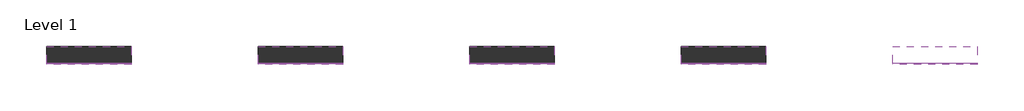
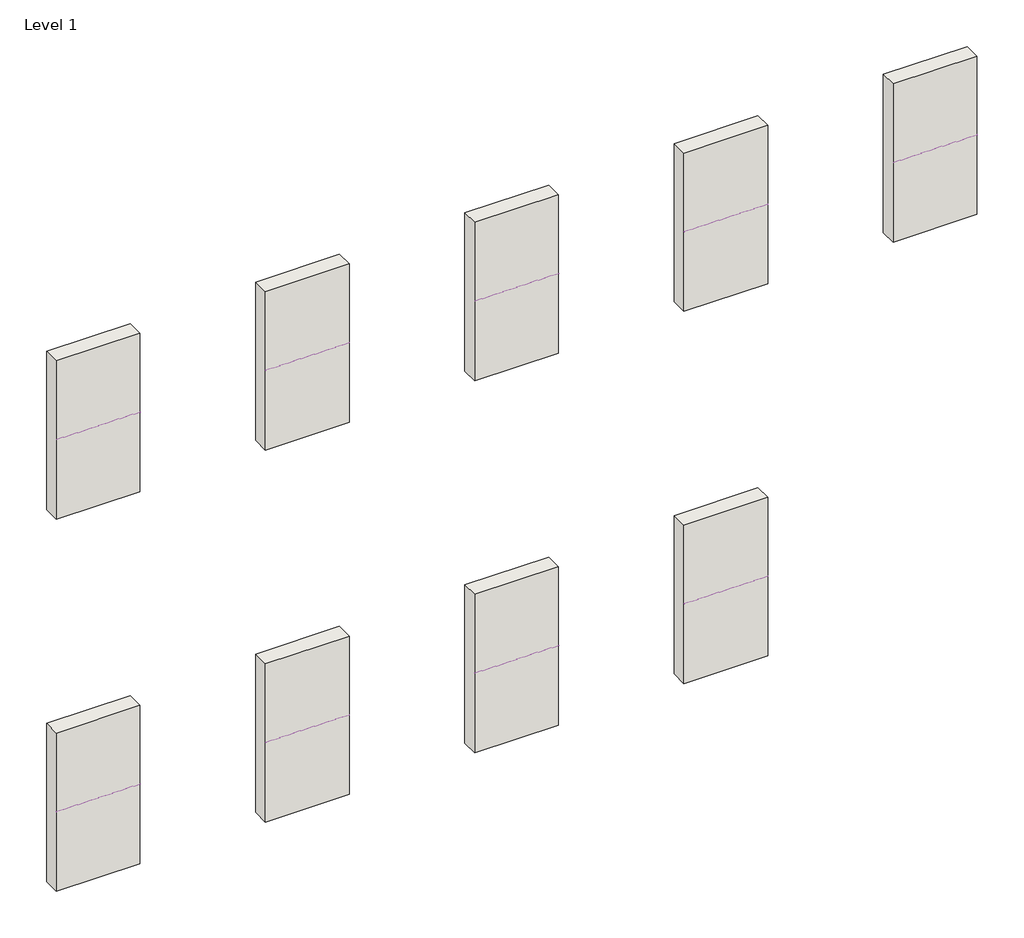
# One storey: 9 coverings, 9 walls.
"""IFC4 building model written with IfcOpenShell, lengths in millimetres."""

from ifc_helpers import new_model, si_unit, point, frame, frame_2d, origin, place, context, project, spatial, polyline, circle_curve, trimmed, segment, composite_curve, outline, extrude, faceted_brep, element, save

model = new_model("IFC4")

# Units and contexts
model_context = context("Model", 3, world=origin())
ifc_project = project(units=[si_unit("LENGTHUNIT", "METRE", prefix="MILLI")], contexts=[model_context])

# Site, building, storey
site = spatial("IfcSite", under=ifc_project)
building = spatial("IfcBuilding", under=site)
storey = spatial("IfcBuildingStorey", under=building, Name="Level 1", Elevation=0.0)

# Coverings
placement = place(None, origin())
element("IfcCovering", 1, ObjectType="MARGRES-TIME 2.0-SKIRTING SIT-IN-15x30-NR-GREY", at=placement, inside=storey, context=model_context, shape_type="SweptSolid", body=[
    extrude(outline(composite_curve([segment(trimmed(circle_curve(frame_2d((3105.2037988, 1020.0)), 4.53125), [point((3109.7350488, 1020.0))], [point((3105.7350488, 1015.5))], False, "CARTESIAN"), True, "CONTINUOUS"), segment(trimmed(circle_curve(frame_2d((3106.2662988, 1011.0)), 4.53125), [point((3105.7350488, 1015.5))], [point((3101.7350488, 1011.0))], True, "CARTESIAN"), True, "CONTINUOUS"), segment(polyline([(3101.7350488, 1011.0), (3095.7350488, 1011.0), (3095.7350488, 1020.0)]), True, "CONTINUOUS"), segment(trimmed(circle_curve(frame_2d((3095.7350488, 1026.0)), 6.0), [point((3095.7350488, 1020.0))], [point((3101.7350488, 1026.0))], True, "CARTESIAN"), True, "CONTINUOUS"), segment(polyline([(3101.7350488, 1026.0), (3101.7350488, 1166.0)]), True, "CONTINUOUS"), segment(trimmed(circle_curve(frame_2d((3109.7350488, 1166.0)), 8.0), [point((3101.7350488, 1166.0))], [point((3109.7350488, 1174.0))], False, "CARTESIAN"), True, "CONTINUOUS"), segment(polyline([(3109.7350488, 1174.0), (3109.7350488, 1020.0)]), True, "CONTINUOUS")], self_intersect=False)), frame((2475.4501166, 0.0, 0.0), z_axis=(1.0, 0.0, 0.0), x_axis=(0.0, 1.0, 0.0)), (0.0, 0.0, 1.0), 1000.0),
])
element("IfcCovering", 2, ObjectType="MARGRES-TIME 2.0-SKIRTING SIT-IN-15x30-NR-BEIGE", at=placement, inside=storey, context=model_context, shape_type="SweptSolid", body=[
    extrude(outline(composite_curve([segment(trimmed(circle_curve(frame_2d((3105.2037988, 5720.0)), 4.53125), [point((3109.7350488, 5720.0))], [point((3105.7350488, 5715.5))], False, "CARTESIAN"), True, "CONTINUOUS"), segment(trimmed(circle_curve(frame_2d((3106.2662988, 5711.0)), 4.53125), [point((3105.7350488, 5715.5))], [point((3101.7350488, 5711.0))], True, "CARTESIAN"), True, "CONTINUOUS"), segment(polyline([(3101.7350488, 5711.0), (3095.7350488, 5711.0), (3095.7350488, 5720.0)]), True, "CONTINUOUS"), segment(trimmed(circle_curve(frame_2d((3095.7350488, 5726.0)), 6.0), [point((3095.7350488, 5720.0))], [point((3101.7350488, 5726.0))], True, "CARTESIAN"), True, "CONTINUOUS"), segment(polyline([(3101.7350488, 5726.0), (3101.7350488, 5866.0)]), True, "CONTINUOUS"), segment(trimmed(circle_curve(frame_2d((3109.7350488, 5866.0)), 8.0), [point((3101.7350488, 5866.0))], [point((3109.7350488, 5874.0))], False, "CARTESIAN"), True, "CONTINUOUS"), segment(polyline([(3109.7350488, 5874.0), (3109.7350488, 5720.0)]), True, "CONTINUOUS")], self_intersect=False)), frame((2475.4501166, 0.0, 0.0), z_axis=(1.0, 0.0, 0.0), x_axis=(0.0, 1.0, 0.0)), (0.0, 0.0, 1.0), 1000.0),
])
element("IfcCovering", 3, ObjectType="MARGRES-TIME 2.0-SKIRTING SIT-IN-15x30-NR-BLACK", at=placement, inside=storey, context=model_context, shape_type="SweptSolid", body=[
    extrude(outline(composite_curve([segment(trimmed(circle_curve(frame_2d((3105.2037988, 5720.0)), 4.53125), [point((3109.7350488, 5720.0))], [point((3105.7350488, 5715.5))], False, "CARTESIAN"), True, "CONTINUOUS"), segment(trimmed(circle_curve(frame_2d((3106.2662988, 5711.0)), 4.53125), [point((3105.7350488, 5715.5))], [point((3101.7350488, 5711.0))], True, "CARTESIAN"), True, "CONTINUOUS"), segment(polyline([(3101.7350488, 5711.0), (3095.7350488, 5711.0), (3095.7350488, 5720.0)]), True, "CONTINUOUS"), segment(trimmed(circle_curve(frame_2d((3095.7350488, 5726.0)), 6.0), [point((3095.7350488, 5720.0))], [point((3101.7350488, 5726.0))], True, "CARTESIAN"), True, "CONTINUOUS"), segment(polyline([(3101.7350488, 5726.0), (3101.7350488, 5866.0)]), True, "CONTINUOUS"), segment(trimmed(circle_curve(frame_2d((3109.7350488, 5866.0)), 8.0), [point((3101.7350488, 5866.0))], [point((3109.7350488, 5874.0))], False, "CARTESIAN"), True, "CONTINUOUS"), segment(polyline([(3109.7350488, 5874.0), (3109.7350488, 5720.0)]), True, "CONTINUOUS")], self_intersect=False)), frame((4975.4501166, 0.0, 0.0), z_axis=(1.0, 0.0, 0.0), x_axis=(0.0, 1.0, 0.0)), (0.0, 0.0, 1.0), 1000.0),
])
element("IfcCovering", 4, ObjectType="MARGRES-TIME 2.0-SKIRTING SIT-IN-15x30-NR-CARBON", at=placement, inside=storey, context=model_context, shape_type="SweptSolid", body=[
    extrude(outline(composite_curve([segment(trimmed(circle_curve(frame_2d((3105.2037988, 5720.0)), 4.53125), [point((3109.7350488, 5720.0))], [point((3105.7350488, 5715.5))], False, "CARTESIAN"), True, "CONTINUOUS"), segment(trimmed(circle_curve(frame_2d((3106.2662988, 5711.0)), 4.53125), [point((3105.7350488, 5715.5))], [point((3101.7350488, 5711.0))], True, "CARTESIAN"), True, "CONTINUOUS"), segment(polyline([(3101.7350488, 5711.0), (3095.7350488, 5711.0), (3095.7350488, 5720.0)]), True, "CONTINUOUS"), segment(trimmed(circle_curve(frame_2d((3095.7350488, 5726.0)), 6.0), [point((3095.7350488, 5720.0))], [point((3101.7350488, 5726.0))], True, "CARTESIAN"), True, "CONTINUOUS"), segment(polyline([(3101.7350488, 5726.0), (3101.7350488, 5866.0)]), True, "CONTINUOUS"), segment(trimmed(circle_curve(frame_2d((3109.7350488, 5866.0)), 8.0), [point((3101.7350488, 5866.0))], [point((3109.7350488, 5874.0))], False, "CARTESIAN"), True, "CONTINUOUS"), segment(polyline([(3109.7350488, 5874.0), (3109.7350488, 5720.0)]), True, "CONTINUOUS")], self_intersect=False)), frame((7475.4501166, 0.0, 0.0), z_axis=(1.0, 0.0, 0.0), x_axis=(0.0, 1.0, 0.0)), (0.0, 0.0, 1.0), 1000.0),
])
element("IfcCovering", 5, ObjectType="MARGRES-TIME 2.0-SKIRTING SIT-IN-15x30-NR-CREAM", at=placement, inside=storey, context=model_context, shape_type="SweptSolid", body=[
    extrude(outline(composite_curve([segment(trimmed(circle_curve(frame_2d((3105.2037988, 5720.0)), 4.53125), [point((3109.7350488, 5720.0))], [point((3105.7350488, 5715.5))], False, "CARTESIAN"), True, "CONTINUOUS"), segment(trimmed(circle_curve(frame_2d((3106.2662988, 5711.0)), 4.53125), [point((3105.7350488, 5715.5))], [point((3101.7350488, 5711.0))], True, "CARTESIAN"), True, "CONTINUOUS"), segment(polyline([(3101.7350488, 5711.0), (3095.7350488, 5711.0), (3095.7350488, 5720.0)]), True, "CONTINUOUS"), segment(trimmed(circle_curve(frame_2d((3095.7350488, 5726.0)), 6.0), [point((3095.7350488, 5720.0))], [point((3101.7350488, 5726.0))], True, "CARTESIAN"), True, "CONTINUOUS"), segment(polyline([(3101.7350488, 5726.0), (3101.7350488, 5866.0)]), True, "CONTINUOUS"), segment(trimmed(circle_curve(frame_2d((3109.7350488, 5866.0)), 8.0), [point((3101.7350488, 5866.0))], [point((3109.7350488, 5874.0))], False, "CARTESIAN"), True, "CONTINUOUS"), segment(polyline([(3109.7350488, 5874.0), (3109.7350488, 5720.0)]), True, "CONTINUOUS")], self_intersect=False)), frame((9975.4501166, 0.0, 0.0), z_axis=(1.0, 0.0, 0.0), x_axis=(0.0, 1.0, 0.0)), (0.0, 0.0, 1.0), 1000.0),
])
element("IfcCovering", 6, ObjectType="MARGRES-TIME 2.0-SKIRTING SIT-IN-15x30-NR-DOVE", at=placement, inside=storey, context=model_context, shape_type="SweptSolid", body=[
    extrude(outline(composite_curve([segment(trimmed(circle_curve(frame_2d((3105.2037988, 5720.0)), 4.53125), [point((3109.7350488, 5720.0))], [point((3105.7350488, 5715.5))], False, "CARTESIAN"), True, "CONTINUOUS"), segment(trimmed(circle_curve(frame_2d((3106.2662988, 5711.0)), 4.53125), [point((3105.7350488, 5715.5))], [point((3101.7350488, 5711.0))], True, "CARTESIAN"), True, "CONTINUOUS"), segment(polyline([(3101.7350488, 5711.0), (3095.7350488, 5711.0), (3095.7350488, 5720.0)]), True, "CONTINUOUS"), segment(trimmed(circle_curve(frame_2d((3095.7350488, 5726.0)), 6.0), [point((3095.7350488, 5720.0))], [point((3101.7350488, 5726.0))], True, "CARTESIAN"), True, "CONTINUOUS"), segment(polyline([(3101.7350488, 5726.0), (3101.7350488, 5866.0)]), True, "CONTINUOUS"), segment(trimmed(circle_curve(frame_2d((3109.7350488, 5866.0)), 8.0), [point((3101.7350488, 5866.0))], [point((3109.7350488, 5874.0))], False, "CARTESIAN"), True, "CONTINUOUS"), segment(polyline([(3109.7350488, 5874.0), (3109.7350488, 5720.0)]), True, "CONTINUOUS")], self_intersect=False)), frame((12475.4501166, 0.0, 0.0), z_axis=(1.0, 0.0, 0.0), x_axis=(0.0, 1.0, 0.0)), (0.0, 0.0, 1.0), 1000.0),
])
element("IfcCovering", 7, ObjectType="MARGRES-TIME 2.0-SKIRTING SIT-IN-15x30-NR-SILVER", at=placement, inside=storey, context=model_context, shape_type="SweptSolid", body=[
    extrude(outline(composite_curve([segment(trimmed(circle_curve(frame_2d((3105.2037988, 1020.0)), 4.53125), [point((3109.7350488, 1020.0))], [point((3105.7350488, 1015.5))], False, "CARTESIAN"), True, "CONTINUOUS"), segment(trimmed(circle_curve(frame_2d((3106.2662988, 1011.0)), 4.53125), [point((3105.7350488, 1015.5))], [point((3101.7350488, 1011.0))], True, "CARTESIAN"), True, "CONTINUOUS"), segment(polyline([(3101.7350488, 1011.0), (3095.7350488, 1011.0), (3095.7350488, 1020.0)]), True, "CONTINUOUS"), segment(trimmed(circle_curve(frame_2d((3095.7350488, 1026.0)), 6.0), [point((3095.7350488, 1020.0))], [point((3101.7350488, 1026.0))], True, "CARTESIAN"), True, "CONTINUOUS"), segment(polyline([(3101.7350488, 1026.0), (3101.7350488, 1166.0)]), True, "CONTINUOUS"), segment(trimmed(circle_curve(frame_2d((3109.7350488, 1166.0)), 8.0), [point((3101.7350488, 1166.0))], [point((3109.7350488, 1174.0))], False, "CARTESIAN"), True, "CONTINUOUS"), segment(polyline([(3109.7350488, 1174.0), (3109.7350488, 1020.0)]), True, "CONTINUOUS")], self_intersect=False)), frame((4975.4501166, 0.0, 0.0), z_axis=(1.0, 0.0, 0.0), x_axis=(0.0, 1.0, 0.0)), (0.0, 0.0, 1.0), 1000.0),
])
element("IfcCovering", 8, ObjectType="MARGRES-TIME 2.0-SKIRTING SIT-IN-15x30-NR-SNOW", at=placement, inside=storey, context=model_context, shape_type="SweptSolid", body=[
    extrude(outline(composite_curve([segment(trimmed(circle_curve(frame_2d((3105.2037988, 1020.0)), 4.53125), [point((3109.7350488, 1020.0))], [point((3105.7350488, 1015.5))], False, "CARTESIAN"), True, "CONTINUOUS"), segment(trimmed(circle_curve(frame_2d((3106.2662988, 1011.0)), 4.53125), [point((3105.7350488, 1015.5))], [point((3101.7350488, 1011.0))], True, "CARTESIAN"), True, "CONTINUOUS"), segment(polyline([(3101.7350488, 1011.0), (3095.7350488, 1011.0), (3095.7350488, 1020.0)]), True, "CONTINUOUS"), segment(trimmed(circle_curve(frame_2d((3095.7350488, 1026.0)), 6.0), [point((3095.7350488, 1020.0))], [point((3101.7350488, 1026.0))], True, "CARTESIAN"), True, "CONTINUOUS"), segment(polyline([(3101.7350488, 1026.0), (3101.7350488, 1166.0)]), True, "CONTINUOUS"), segment(trimmed(circle_curve(frame_2d((3109.7350488, 1166.0)), 8.0), [point((3101.7350488, 1166.0))], [point((3109.7350488, 1174.0))], False, "CARTESIAN"), True, "CONTINUOUS"), segment(polyline([(3109.7350488, 1174.0), (3109.7350488, 1020.0)]), True, "CONTINUOUS")], self_intersect=False)), frame((7475.4501166, 0.0, 0.0), z_axis=(1.0, 0.0, 0.0), x_axis=(0.0, 1.0, 0.0)), (0.0, 0.0, 1.0), 1000.0),
])
element("IfcCovering", 9, ObjectType="MARGRES-TIME 2.0-SKIRTING SIT-IN-15x30-NR-WHITE", at=placement, inside=storey, context=model_context, shape_type="SweptSolid", body=[
    extrude(outline(composite_curve([segment(trimmed(circle_curve(frame_2d((3105.2037988, 1020.0)), 4.53125), [point((3109.7350488, 1020.0))], [point((3105.7350488, 1015.5))], False, "CARTESIAN"), True, "CONTINUOUS"), segment(trimmed(circle_curve(frame_2d((3106.2662988, 1011.0)), 4.53125), [point((3105.7350488, 1015.5))], [point((3101.7350488, 1011.0))], True, "CARTESIAN"), True, "CONTINUOUS"), segment(polyline([(3101.7350488, 1011.0), (3095.7350488, 1011.0), (3095.7350488, 1020.0)]), True, "CONTINUOUS"), segment(trimmed(circle_curve(frame_2d((3095.7350488, 1026.0)), 6.0), [point((3095.7350488, 1020.0))], [point((3101.7350488, 1026.0))], True, "CARTESIAN"), True, "CONTINUOUS"), segment(polyline([(3101.7350488, 1026.0), (3101.7350488, 1166.0)]), True, "CONTINUOUS"), segment(trimmed(circle_curve(frame_2d((3109.7350488, 1166.0)), 8.0), [point((3101.7350488, 1166.0))], [point((3109.7350488, 1174.0))], False, "CARTESIAN"), True, "CONTINUOUS"), segment(polyline([(3109.7350488, 1174.0), (3109.7350488, 1020.0)]), True, "CONTINUOUS")], self_intersect=False)), frame((9975.4501166, 0.0, 0.0), z_axis=(1.0, 0.0, 0.0), x_axis=(0.0, 1.0, 0.0)), (0.0, 0.0, 1.0), 1000.0),
])

# Walls
element("IfcWall", 10, ObjectType="Wall 1", at=placement, inside=storey, context=model_context, shape_type="Brep", body=[
    faceted_brep([(2475.4501166, 3109.7350488, 0.0), (3475.4501166, 3109.7350488, 0.0), (3475.4501166, 3109.7350488, 1020.0), (3475.4501166, 3109.7350488, 1174.0), (3475.4501166, 3109.7350488, 2000.0), (2475.4501166, 3109.7350488, 2000.0), (2475.4501166, 3109.7350488, 1174.0), (2475.4501166, 3109.7350488, 1020.0), (3475.4501166, 3309.7350488, 0.0), (2475.4501166, 3309.7350488, 0.0), (2475.4501166, 3309.7350488, 2000.0), (3475.4501166, 3309.7350488, 2000.0)], [[[0, 1, 2, 3, 4, 5, 6, 7]], [[8, 9, 10, 11]], [[1, 0, 9, 8]], [[8, 11, 4, 3, 2, 1]], [[5, 4, 11, 10]], [[10, 9, 0, 7, 6, 5]]]),
])
element("IfcWall", 11, ObjectType="Wall 1", at=placement, inside=storey, context=model_context, shape_type="Brep", body=[
    faceted_brep([(2475.4501166, 3109.7350488, 4700.0), (3475.4501166, 3109.7350488, 4700.0), (3475.4501166, 3109.7350488, 5720.0), (3475.4501166, 3109.7350488, 5874.0), (3475.4501166, 3109.7350488, 6700.0), (2475.4501166, 3109.7350488, 6700.0), (2475.4501166, 3109.7350488, 5874.0), (2475.4501166, 3109.7350488, 5720.0), (3475.4501166, 3309.7350488, 4700.0), (2475.4501166, 3309.7350488, 4700.0), (2475.4501166, 3309.7350488, 6700.0), (3475.4501166, 3309.7350488, 6700.0)], [[[0, 1, 2, 3, 4, 5, 6, 7]], [[8, 9, 10, 11]], [[1, 0, 9, 8]], [[8, 11, 4, 3, 2, 1]], [[5, 4, 11, 10]], [[10, 9, 0, 7, 6, 5]]]),
])
element("IfcWall", 12, ObjectType="Wall 1", at=placement, inside=storey, context=model_context, shape_type="Brep", body=[
    faceted_brep([(4975.4501166, 3109.7350488, 4700.0), (5975.4501166, 3109.7350488, 4700.0), (5975.4501166, 3109.7350488, 5720.0), (5975.4501166, 3109.7350488, 5874.0), (5975.4501166, 3109.7350488, 6700.0), (4975.4501166, 3109.7350488, 6700.0), (4975.4501166, 3109.7350488, 5874.0), (4975.4501166, 3109.7350488, 5720.0), (5975.4501166, 3309.7350488, 4700.0), (4975.4501166, 3309.7350488, 4700.0), (4975.4501166, 3309.7350488, 6700.0), (5975.4501166, 3309.7350488, 6700.0)], [[[0, 1, 2, 3, 4, 5, 6, 7]], [[8, 9, 10, 11]], [[1, 0, 9, 8]], [[8, 11, 4, 3, 2, 1]], [[5, 4, 11, 10]], [[10, 9, 0, 7, 6, 5]]]),
])
element("IfcWall", 13, ObjectType="Wall 1", at=placement, inside=storey, context=model_context, shape_type="Brep", body=[
    faceted_brep([(7475.4501166, 3109.7350488, 4700.0), (8475.4501166, 3109.7350488, 4700.0), (8475.4501166, 3109.7350488, 5720.0), (8475.4501166, 3109.7350488, 5874.0), (8475.4501166, 3109.7350488, 6700.0), (7475.4501166, 3109.7350488, 6700.0), (7475.4501166, 3109.7350488, 5874.0), (7475.4501166, 3109.7350488, 5720.0), (8475.4501166, 3309.7350488, 4700.0), (7475.4501166, 3309.7350488, 4700.0), (7475.4501166, 3309.7350488, 6700.0), (8475.4501166, 3309.7350488, 6700.0)], [[[0, 1, 2, 3, 4, 5, 6, 7]], [[8, 9, 10, 11]], [[1, 0, 9, 8]], [[8, 11, 4, 3, 2, 1]], [[5, 4, 11, 10]], [[10, 9, 0, 7, 6, 5]]]),
])
element("IfcWall", 14, ObjectType="Wall 1", at=placement, inside=storey, context=model_context, shape_type="Brep", body=[
    faceted_brep([(9975.4501166, 3109.7350488, 4700.0), (10975.4501166, 3109.7350488, 4700.0), (10975.4501166, 3109.7350488, 5720.0), (10975.4501166, 3109.7350488, 5874.0), (10975.4501166, 3109.7350488, 6700.0), (9975.4501166, 3109.7350488, 6700.0), (9975.4501166, 3109.7350488, 5874.0), (9975.4501166, 3109.7350488, 5720.0), (10975.4501166, 3309.7350488, 4700.0), (9975.4501166, 3309.7350488, 4700.0), (9975.4501166, 3309.7350488, 6700.0), (10975.4501166, 3309.7350488, 6700.0)], [[[0, 1, 2, 3, 4, 5, 6, 7]], [[8, 9, 10, 11]], [[1, 0, 9, 8]], [[8, 11, 4, 3, 2, 1]], [[5, 4, 11, 10]], [[10, 9, 0, 7, 6, 5]]]),
])
element("IfcWall", 15, ObjectType="Wall 1", at=placement, inside=storey, context=model_context, shape_type="Brep", body=[
    faceted_brep([(12475.4501166, 3109.7350488, 4700.0), (13475.4501166, 3109.7350488, 4700.0), (13475.4501166, 3109.7350488, 5720.0), (13475.4501166, 3109.7350488, 5874.0), (13475.4501166, 3109.7350488, 6700.0), (12475.4501166, 3109.7350488, 6700.0), (12475.4501166, 3109.7350488, 5874.0), (12475.4501166, 3109.7350488, 5720.0), (13475.4501166, 3309.7350488, 4700.0), (12475.4501166, 3309.7350488, 4700.0), (12475.4501166, 3309.7350488, 6700.0), (13475.4501166, 3309.7350488, 6700.0)], [[[0, 1, 2, 3, 4, 5, 6, 7]], [[8, 9, 10, 11]], [[1, 0, 9, 8]], [[8, 11, 4, 3, 2, 1]], [[5, 4, 11, 10]], [[10, 9, 0, 7, 6, 5]]]),
])
element("IfcWall", 16, ObjectType="Wall 1", at=placement, inside=storey, context=model_context, shape_type="Brep", body=[
    faceted_brep([(4975.4501166, 3109.7350488, 0.0), (5975.4501166, 3109.7350488, 0.0), (5975.4501166, 3109.7350488, 1020.0), (5975.4501166, 3109.7350488, 1174.0), (5975.4501166, 3109.7350488, 2000.0), (4975.4501166, 3109.7350488, 2000.0), (4975.4501166, 3109.7350488, 1174.0), (4975.4501166, 3109.7350488, 1020.0), (5975.4501166, 3309.7350488, 0.0), (4975.4501166, 3309.7350488, 0.0), (4975.4501166, 3309.7350488, 2000.0), (5975.4501166, 3309.7350488, 2000.0)], [[[0, 1, 2, 3, 4, 5, 6, 7]], [[8, 9, 10, 11]], [[1, 0, 9, 8]], [[8, 11, 4, 3, 2, 1]], [[5, 4, 11, 10]], [[10, 9, 0, 7, 6, 5]]]),
])
element("IfcWall", 17, ObjectType="Wall 1", at=placement, inside=storey, context=model_context, shape_type="Brep", body=[
    faceted_brep([(7475.4501166, 3109.7350488, 0.0), (8475.4501166, 3109.7350488, 0.0), (8475.4501166, 3109.7350488, 1020.0), (8475.4501166, 3109.7350488, 1174.0), (8475.4501166, 3109.7350488, 2000.0), (7475.4501166, 3109.7350488, 2000.0), (7475.4501166, 3109.7350488, 1174.0), (7475.4501166, 3109.7350488, 1020.0), (8475.4501166, 3309.7350488, 0.0), (7475.4501166, 3309.7350488, 0.0), (7475.4501166, 3309.7350488, 2000.0), (8475.4501166, 3309.7350488, 2000.0)], [[[0, 1, 2, 3, 4, 5, 6, 7]], [[8, 9, 10, 11]], [[1, 0, 9, 8]], [[8, 11, 4, 3, 2, 1]], [[5, 4, 11, 10]], [[10, 9, 0, 7, 6, 5]]]),
])
element("IfcWall", 18, ObjectType="Wall 1", at=placement, inside=storey, context=model_context, shape_type="Brep", body=[
    faceted_brep([(9975.4501166, 3109.7350488, 0.0), (10975.4501166, 3109.7350488, 0.0), (10975.4501166, 3109.7350488, 1020.0), (10975.4501166, 3109.7350488, 1174.0), (10975.4501166, 3109.7350488, 2000.0), (9975.4501166, 3109.7350488, 2000.0), (9975.4501166, 3109.7350488, 1174.0), (9975.4501166, 3109.7350488, 1020.0), (10975.4501166, 3309.7350488, 0.0), (9975.4501166, 3309.7350488, 0.0), (9975.4501166, 3309.7350488, 2000.0), (10975.4501166, 3309.7350488, 2000.0)], [[[0, 1, 2, 3, 4, 5, 6, 7]], [[8, 9, 10, 11]], [[1, 0, 9, 8]], [[8, 11, 4, 3, 2, 1]], [[5, 4, 11, 10]], [[10, 9, 0, 7, 6, 5]]]),
])

save(model, "model.ifc")
